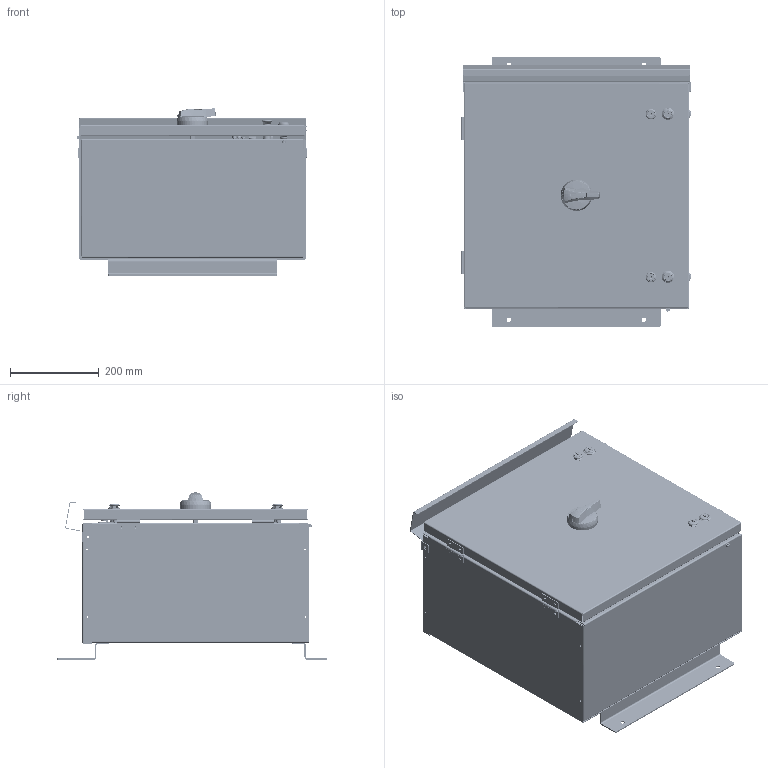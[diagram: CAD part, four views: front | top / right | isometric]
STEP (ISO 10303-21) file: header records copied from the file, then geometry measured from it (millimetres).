
FILE_DESCRIPTION (( 'STEP AP203' ), '1' );
FILE_NAME ('MPD-DS-WML-FDS-3P-3W-600V-60A-DF-BM-N4X-TD.STEP', '2025-04-23T15:42:14', ( '' ), ( '' ), 'SwSTEP 2.0', 'SolidWorks 2020', '' );
FILE_SCHEMA (( 'CONFIG_CONTROL_DESIGN' ));
Length unit declared in the file: inch
Products named in the file (26): FAB00002354C; FAB00002151D; FAB00002354A-1_400-600 ; MPD-DS-WML-FDS-3P-3W-600V-60A-DF-BM-N4X-TD; 148D1111 - Handle; Straight Link; flush stud_pmi_PEM FHS-032-10 ---N; 1151A61_Surface-Mount Lift-Off Hinges with Holes - Assembly_Flat; 14070532 - Shaft_200A BOX; self-clinching nut_pmi_PEM SS-032-0 ZI--N; FAB00002151A-4; Cover; SOCOMEC 22013006 - 60A DISCONNECT; FAB00002151A-3_600-800; FAB00002354A_600-800; FAB00002151A-5; Body; FAB00001273-A-12; 22005011 - UNSWITCHED NEUTRAL POLE; 1151A61_Surface-Mount Lift-Off Hinges with Holes - 1_1151A61; self-clinching nut_pmi_PEM CLSS-032-2 ---N; 1151A61_Surface-Mount Lift-Off Hinges with Holes - 2_1151A61; FAB00002354B_400-600; C8055-KD-14A_C8055-14A; FAB00002151A-2_600-800; flush stud_pmi_PEM FHS-0420-20 ---N
Assembly tree (37 placements, depth 3):
  MPD-DS-WML-FDS-3P-3W-600V-60A-DF-BM-N4X-TD
    FAB00002354A_600-800
      FAB00002354A-1_400-600 
      FAB00002151A-2_600-800
      FAB00002151A-3_600-800
      FAB00002151A-4
      FAB00002151A-5
      self-clinching nut_pmi_PEM SS-032-0 ZI--N  x2
      flush stud_pmi_PEM FHS-0420-20 ---N  x4
      self-clinching nut_pmi_PEM CLSS-032-2 ---N  x4
      flush stud_pmi_PEM FHS-032-10 ---N
    14070532 - Shaft_200A BOX
    SOCOMEC 22013006 - 60A DISCONNECT
    22005011 - UNSWITCHED NEUTRAL POLE
    FAB00002354B_400-600
    1151A61_Surface-Mount Lift-Off Hinges with Holes - Assembly_Flat  x2
      1151A61_Surface-Mount Lift-Off Hinges with Holes - 1_1151A61
      1151A61_Surface-Mount Lift-Off Hinges with Holes - 2_1151A61
    FAB00002354C
    148D1111 - Handle
    C8055-KD-14A_C8055-14A  x2
      Body
      Cover
      Straight Link
    FAB00002151D
    FAB00001273-A-12  x4
Bounding box: 519.79 x 609.34 x 377.73 mm (x, y, z)
Volume: 3848672.5 mm3; surface area: 3382094.1 mm2
Topology: 104 solids, 104 shells, 8407 faces, 21935 edges, 13897 vertices
Faces by surface type: plane 2986, cylinder 2272, cone 1498, bspline 1419, torus 220, sphere 12
Entity records: 236394 total; most frequent: CARTESIAN_POINT 105017, ORIENTED_EDGE 29246, DIRECTION 23461, EDGE_CURVE 14623, VERTEX_POINT 9216, AXIS2_PLACEMENT_3D 8440, LINE 6581, VECTOR 6581
